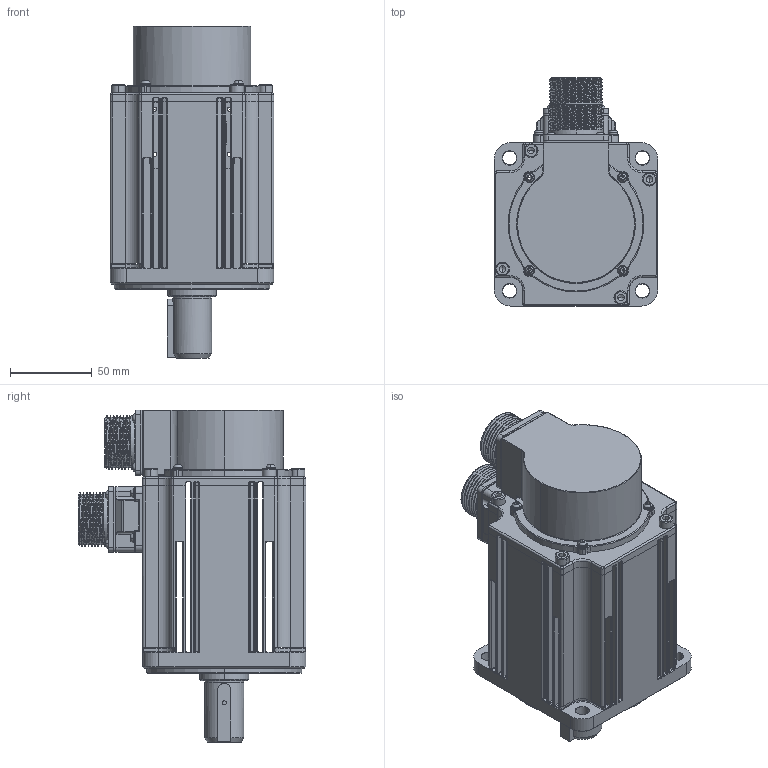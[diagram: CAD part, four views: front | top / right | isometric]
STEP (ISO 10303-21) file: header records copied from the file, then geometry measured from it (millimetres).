
FILE_DESCRIPTION (( 'STEP AP214' ), '1' );
FILE_NAME ('口100 1.5kW电机（雷赛）.STEP', '2024-09-18T07:51:54', ( '' ), ( '' ), 'SwSTEP 2.0', 'SolidWorks 2021', '' );
FILE_SCHEMA (( 'AUTOMOTIVE_DESIGN' ));
Length unit declared in the file: millimetre
Products named in the file (1): 口100 1.5kW电机（雷赛）
Bounding box: 100 x 139.5 x 203.2 mm (x, y, z)
Surface area: 124027.2 mm2 (no closed solid volume)
Topology: 0 solids, 68 shells, 1634 faces, 4509 edges, 2843 vertices
Faces by surface type: cylinder 672, plane 478, torus 344, sphere 65, cone 58, bspline 17
Entity records: 72495 total; most frequent: CARTESIAN_POINT 12910, DIRECTION 9708, ORIENTED_EDGE 7602, EDGE_CURVE 4436, AXIS2_PLACEMENT_3D 3864, VERTEX_POINT 2820, CIRCLE 2246, LINE 1980
